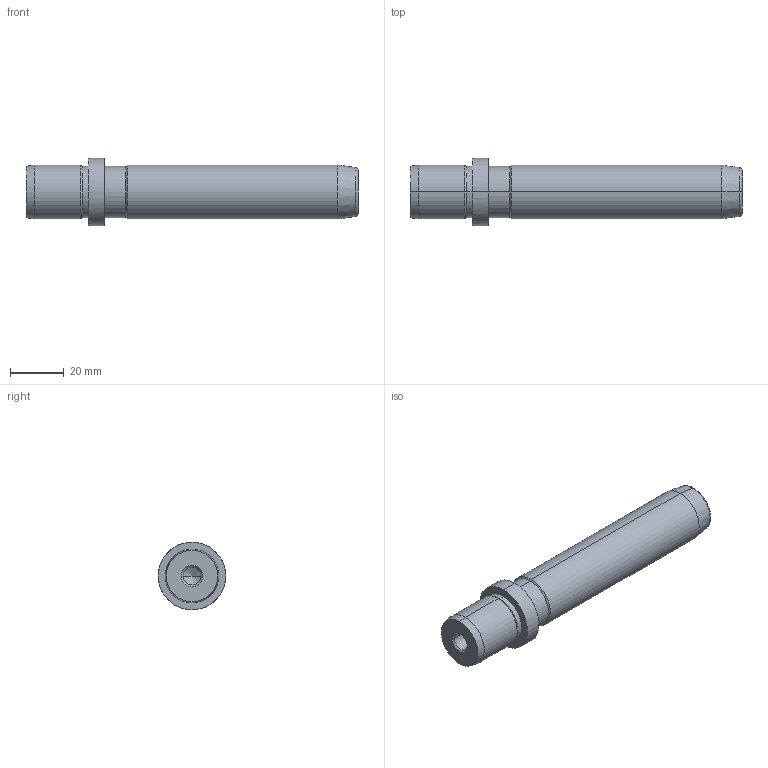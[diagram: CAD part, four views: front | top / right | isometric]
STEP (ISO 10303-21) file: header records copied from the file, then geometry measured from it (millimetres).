
FILE_DESCRIPTION(('CATIA V5 STEP Exchange'),'2;1');
FILE_NAME('C:\Users\Utente\Desktop\IO LAVORO\3D X SITO CF\X SITO\718\718-20x100.stp','2021-01-02T15:27:42+00:00',('none'),('none'),'CATIA Version 5 Release 20 GA (IN-10)','CATIA V5 STEP AP203','none');
FILE_SCHEMA(('CONFIG_CONTROL_DESIGN'));
Length unit declared in the file: millimetre
Products named in the file (1): 718-20x100
Bounding box: 123 x 25 x 25 mm (x, y, z)
Volume: 37366.9 mm3; surface area: 9721.7 mm2
Topology: 1 solids, 1 shells, 36 faces, 100 edges, 66 vertices
Faces by surface type: cone 16, cylinder 14, plane 4, torus 2
Entity records: 1291 total; most frequent: CARTESIAN_POINT 362, ORIENTED_EDGE 192, DIRECTION 157, EDGE_CURVE 96, AXIS2_PLACEMENT_3D 92, VERTEX_POINT 66, CIRCLE 55, EDGE_LOOP 40
